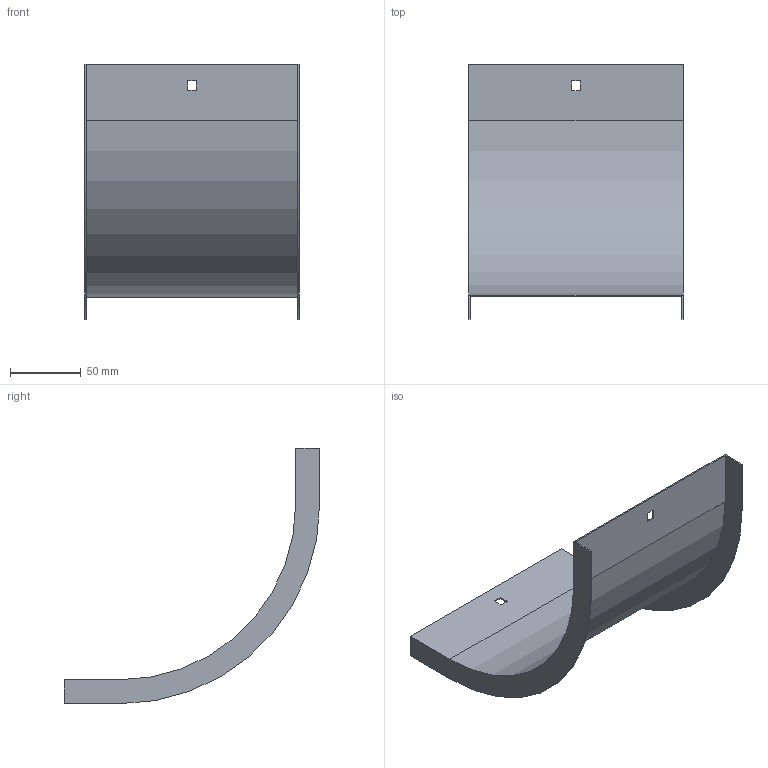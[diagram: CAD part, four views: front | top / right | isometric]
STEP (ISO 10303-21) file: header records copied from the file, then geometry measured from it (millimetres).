
FILE_DESCRIPTION (( 'STEP AP214' ), '1' );
FILE_NAME ('OS9_150.step', '2025-07-16T09:17:16', ( '' ), ( '' ), 'SwSTEP 2.0', 'SolidWorks 2023', '' );
FILE_SCHEMA (( 'AUTOMOTIVE_DESIGN' ));
Length unit declared in the file: millimetre
Products named in the file (1): OS9_150
Bounding box: 152 x 181 x 181 mm (x, y, z)
Volume: 51047.1 mm3; surface area: 103115.5 mm2
Topology: 1 solids, 1 shells, 26 faces, 72 edges, 48 vertices
Faces by surface type: plane 22, cylinder 4
Entity records: 855 total; most frequent: CARTESIAN_POINT 147, ORIENTED_EDGE 144, DIRECTION 134, EDGE_CURVE 72, LINE 64, VECTOR 64, VERTEX_POINT 48, AXIS2_PLACEMENT_3D 35
